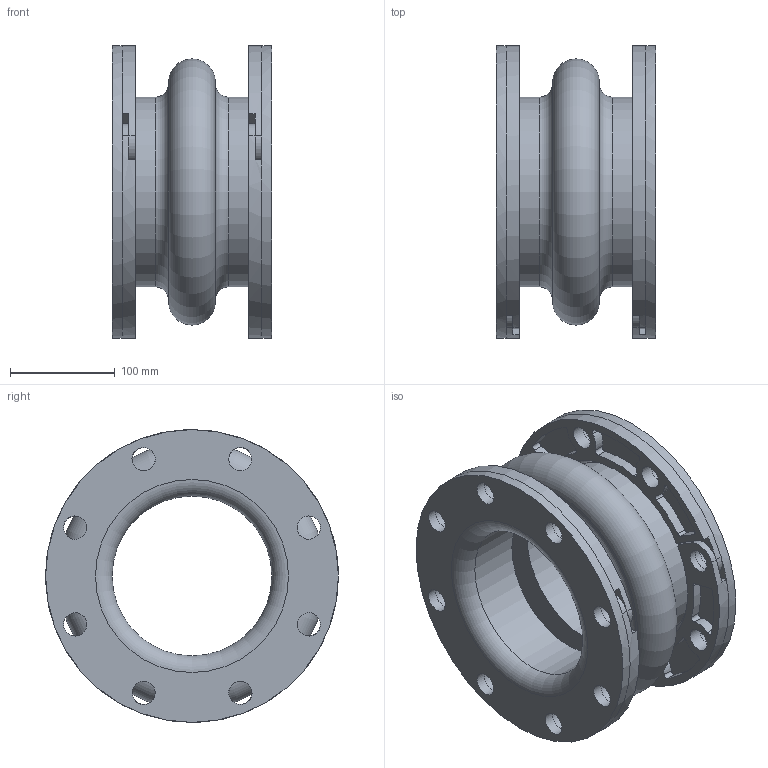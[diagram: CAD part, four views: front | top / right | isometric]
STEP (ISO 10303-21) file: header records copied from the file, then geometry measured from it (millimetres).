
FILE_DESCRIPTION(/* description */ (''),/* implementation_level */ '2;1');
FILE_NAME(/* name */ 'C:\001_Work\Designs\Mercer2014\MQInventor2014\RajR\500 Style\501\New folder\501 6IDx6FF.stp',/* time_stamp */ '2016-03-26T14:30:47-04:00',/* author */ ('rramoutar'),/* organization */ ('Mason Industries Inc.'),/* preprocessor_version */ 'ST-DEVELOPER v15.6',/* originating_system */ 'Autodesk Inventor 2015',/* authorisation */ '');
FILE_SCHEMA (('CONFIG_CONTROL_DESIGN'));
Length unit declared in the file: inch
Products named in the file (1): 501 6IDx6FF
Bounding box: 152.4 x 279.4 x 279.4 mm (x, y, z)
Volume: 2777200.4 mm3; surface area: 476456.2 mm2
Topology: 1 solids, 1 shells, 290 faces, 756 edges, 478 vertices
Faces by surface type: cylinder 186, plane 92, torus 8, cone 4
Full cylindrical faces by diameter (mm): 22.225 x36, 152.4 x2, 180.975 x2, 279.4 x2
Entity records: 8858 total; most frequent: DIRECTION 1690, CARTESIAN_POINT 1399, ORIENTED_EDGE 1332, AXIS2_PLACEMENT_3D 733, EDGE_CURVE 666, CIRCLE 442, VERTEX_POINT 442, EDGE_LOOP 396
